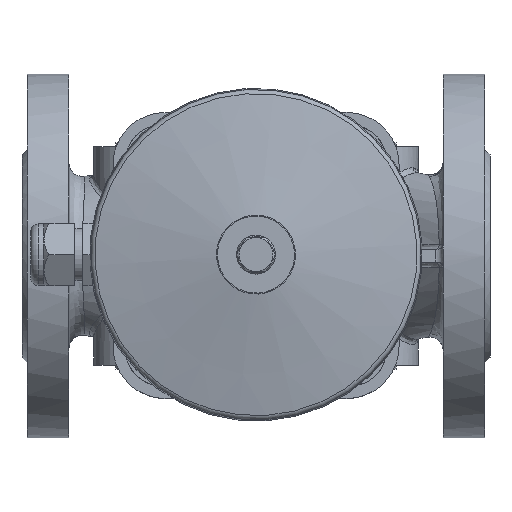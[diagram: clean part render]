
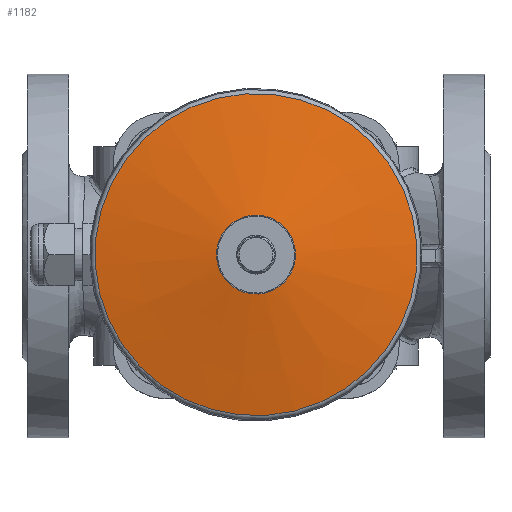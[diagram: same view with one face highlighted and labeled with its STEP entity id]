
A CAD part, top view. The second image highlights one B-rep face of the part: STEP entity #1182.
In plain terms, the highlighted conical face has half-angle 79.29 degrees and reference radius 38.57 mm.
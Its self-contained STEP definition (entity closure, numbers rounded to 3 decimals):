
#1148=CARTESIAN_POINT('',(15.159,1.008,309.826));
#1149=VERTEX_POINT('',#1148);
#1150=CARTESIAN_POINT('',(0.,0.,309.826));
#1151=DIRECTION('',(0.,0.,-1.));
#1152=DIRECTION('',(0.998,0.066,0.));
#1153=AXIS2_PLACEMENT_3D('',#1150,#1151,#1152);
#1154=CIRCLE('',#1153,15.192);
#1155=EDGE_CURVE('',#1149,#1149,#1154,.T.);
#1163=CARTESIAN_POINT('',(0.,0.,305.404));
#1164=DIRECTION('',(0.,0.,-1.0));
#1165=DIRECTION('',(0.998,0.066,0.));
#1166=AXIS2_PLACEMENT_3D('',#1163,#1164,#1165);
#1167=CONICAL_SURFACE('',#1166,38.57,79.29);
#1168=CARTESIAN_POINT('',(61.812,4.11,300.983));
#1169=VERTEX_POINT('',#1168);
#1170=CARTESIAN_POINT('',(0.,0.,300.983));
#1171=DIRECTION('',(0.,0.,-1.));
#1172=DIRECTION('',(0.998,0.066,0.));
#1173=AXIS2_PLACEMENT_3D('',#1170,#1171,#1172);
#1174=CIRCLE('',#1173,61.948);
#1175=EDGE_CURVE('',#1169,#1169,#1174,.T.);
#1176=ORIENTED_EDGE('',*,*,#1175,.F.);
#1177=EDGE_LOOP('',(#1176));
#1178=FACE_OUTER_BOUND('',#1177,.T.);
#1179=ORIENTED_EDGE('',*,*,#1155,.T.);
#1180=EDGE_LOOP('',(#1179));
#1181=FACE_BOUND('',#1180,.T.);
#1182=ADVANCED_FACE('',(#1178,#1181),#1167,.T.);
